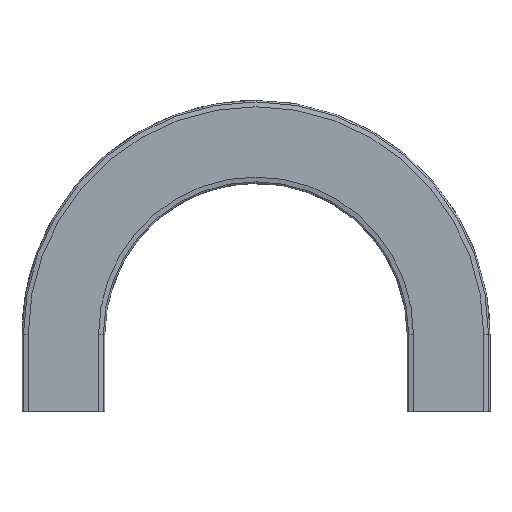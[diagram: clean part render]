
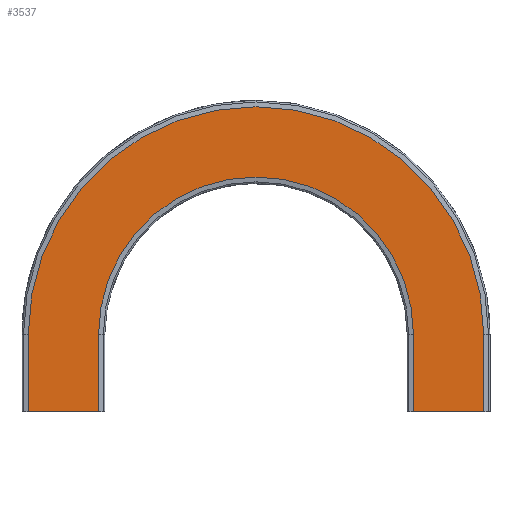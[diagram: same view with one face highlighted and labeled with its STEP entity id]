
A CAD part, front view. The second image highlights one B-rep face of the part: STEP entity #3537.
In plain terms, the highlighted planar face has unit normal (0, -1, 0).
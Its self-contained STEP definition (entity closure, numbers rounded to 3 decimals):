
#375=FACE_OUTER_BOUND('',#571,.T.);
#571=EDGE_LOOP('',(#3221,#3222,#3223,#3224,#3225,#3226,#3227,#3228));
#665=CIRCLE('',#3802,236.5);
#668=CIRCLE('',#3808,163.5);
#998=LINE('',#6513,#1356);
#1003=LINE('',#6522,#1361);
#1005=LINE('',#6527,#1363);
#1020=LINE('',#6567,#1378);
#1025=LINE('',#6578,#1383);
#1026=LINE('',#6580,#1384);
#1356=VECTOR('',#4611,10.);
#1361=VECTOR('',#4618,10.);
#1363=VECTOR('',#4622,10.);
#1378=VECTOR('',#4663,10.);
#1383=VECTOR('',#4676,10.);
#1384=VECTOR('',#4679,10.);
#1696=VERTEX_POINT('',#6510);
#1697=VERTEX_POINT('',#6512);
#1700=VERTEX_POINT('',#6519);
#1701=VERTEX_POINT('',#6524);
#1711=VERTEX_POINT('',#6550);
#1713=VERTEX_POINT('',#6560);
#1714=VERTEX_POINT('',#6565);
#1716=VERTEX_POINT('',#6576);
#2188=EDGE_CURVE('',#1697,#1696,#998,.T.);
#2193=EDGE_CURVE('',#1697,#1700,#1003,.T.);
#2195=EDGE_CURVE('',#1696,#1701,#1005,.T.);
#2208=EDGE_CURVE('',#1701,#1711,#665,.T.);
#2214=EDGE_CURVE('',#1700,#1713,#668,.T.);
#2216=EDGE_CURVE('',#1711,#1714,#1020,.T.);
#2221=EDGE_CURVE('',#1713,#1716,#1025,.T.);
#2222=EDGE_CURVE('',#1714,#1716,#1026,.T.);
#3221=ORIENTED_EDGE('',*,*,#2222,.T.);
#3222=ORIENTED_EDGE('',*,*,#2221,.F.);
#3223=ORIENTED_EDGE('',*,*,#2214,.F.);
#3224=ORIENTED_EDGE('',*,*,#2193,.F.);
#3225=ORIENTED_EDGE('',*,*,#2188,.T.);
#3226=ORIENTED_EDGE('',*,*,#2195,.T.);
#3227=ORIENTED_EDGE('',*,*,#2208,.T.);
#3228=ORIENTED_EDGE('',*,*,#2216,.T.);
#3354=PLANE('',#3814);
#3537=ADVANCED_FACE('',(#375),#3354,.T.);
#3802=AXIS2_PLACEMENT_3D('',#6552,#4643,#4644);
#3808=AXIS2_PLACEMENT_3D('',#6563,#4658,#4659);
#3814=AXIS2_PLACEMENT_3D('',#6579,#4677,#4678);
#4611=DIRECTION('',(1.,0.,0.));
#4618=DIRECTION('',(0.,0.,1.));
#4622=DIRECTION('',(0.,0.,1.));
#4643=DIRECTION('center_axis',(0.,-1.,0.));
#4644=DIRECTION('ref_axis',(1.,0.,0.));
#4658=DIRECTION('center_axis',(0.,-1.,0.));
#4659=DIRECTION('ref_axis',(1.,0.,0.));
#4663=DIRECTION('',(0.,0.,-1.));
#4676=DIRECTION('',(0.,0.,-1.));
#4677=DIRECTION('center_axis',(0.,-1.,0.));
#4678=DIRECTION('ref_axis',(0.,0.,
1.));
#4679=DIRECTION('',(1.,0.,0.));
#6510=CARTESIAN_POINT('',(36.5,-11.,0.));
#6512=CARTESIAN_POINT('',(-36.5,-11.,0.));
#6513=CARTESIAN_POINT('',(-36.5,-11.,0.));
#6519=CARTESIAN_POINT('',(-36.5,-11.,80.));
#6522=CARTESIAN_POINT('',(-36.5,-11.,0.));
#6524=CARTESIAN_POINT('',(36.5,-11.,80.));
#6527=CARTESIAN_POINT('',(36.5,-11.,0.));
#6550=CARTESIAN_POINT('',(-436.5,-11.,80.));
#6552=CARTESIAN_POINT('Origin',(-200.,-11.,80.));
#6560=CARTESIAN_POINT('',(-363.5,-11.,80.));
#6563=CARTESIAN_POINT('Origin',(-200.,-11.,80.));
#6565=CARTESIAN_POINT('',(-436.5,-11.,0.));
#6567=CARTESIAN_POINT('',(-436.5,-11.,788.319));
#6576=CARTESIAN_POINT('',(-363.5,-11.,0.));
#6578=CARTESIAN_POINT('',(-363.5,-11.,788.319));
#6579=CARTESIAN_POINT('Origin',(-436.5,-11.,788.319));
#6580=CARTESIAN_POINT('',(-419.75,-11.,0.));
